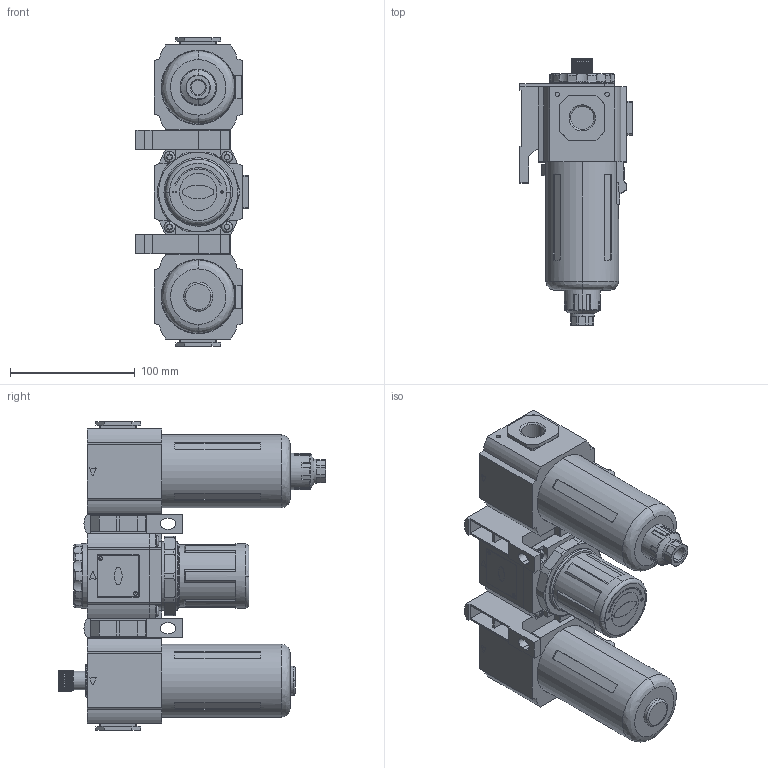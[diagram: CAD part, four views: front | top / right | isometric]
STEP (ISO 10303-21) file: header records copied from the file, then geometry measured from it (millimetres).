
FILE_DESCRIPTION (( 'STEP AP214' ), '1' );
FILE_NAME ('GC-400-15-F1.STEP', '2016-01-22T14:50:28', ( '' ), ( '' ), 'SwSTEP 2.0', 'SolidWorks 2016', '' );
FILE_SCHEMA (( 'AUTOMOTIVE_DESIGN' ));
Length unit declared in the file: millimetre
Products named in the file (29): 1; 24; 22; 8; 9; 28; 7; 11; 21; 5; 12; 18; 25; 17; 20; 2; 23; 16; 27; 26; 3; GC-400-15-F1; 15; 13; 10; 4; 14; 6; 19
Assembly tree (28 placements, depth 2):
  GC-400-15-F1
    1
    2
    3
    4
    5
    6
    7
    8
    9
    10
    11
    12
    13
    14
    15
    16
    17
    18
    19
    20
    21
    22
    23
    24
    25
    26
    27
    28
Bounding box: 90 x 214.5 x 248 mm (x, y, z)
Volume: 1288399.4 mm3; surface area: 287044 mm2
Topology: 28 solids, 28 shells, 1903 faces, 4884 edges, 3213 vertices
Faces by surface type: plane 1222, cylinder 516, bspline 89, cone 76
Entity records: 83968 total; most frequent: CARTESIAN_POINT 15493, ORIENTED_EDGE 9768, DIRECTION 9492, EDGE_CURVE 4884, AXIS2_PLACEMENT_3D 3252, VERTEX_POINT 3213, VECTOR 2988, LINE 2988
